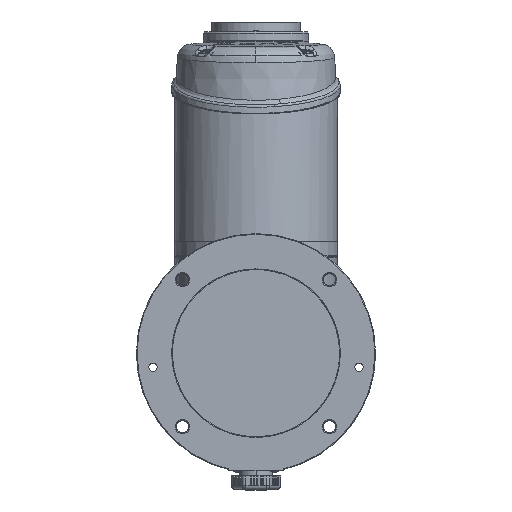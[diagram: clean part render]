
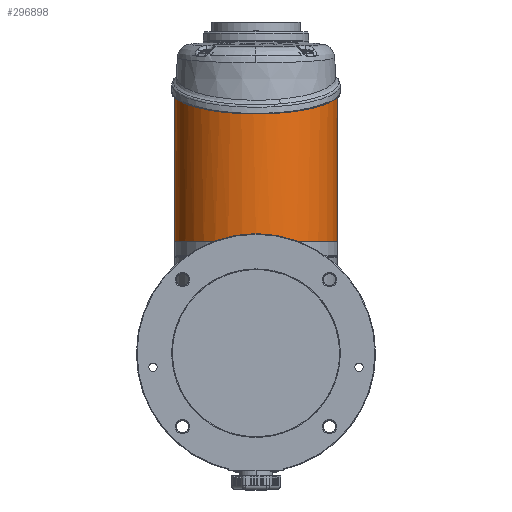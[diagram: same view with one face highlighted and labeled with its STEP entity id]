
A CAD part, top view. The second image highlights one B-rep face of the part: STEP entity #296898.
In plain terms, the highlighted cylindrical face has radius 58 mm (diameter 116 mm), a partial arc.
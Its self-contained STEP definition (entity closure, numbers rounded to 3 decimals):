
#4183 = LINE ( 'NONE', #149025, #191615 ) ;
#9005 = ORIENTED_EDGE ( 'NONE', *, *, #30426, .T. ) ;
#9321 = VERTEX_POINT ( 'NONE', #271841 ) ;
#10251 = EDGE_CURVE ( 'NONE', #9321, #205808, #4183, .T. ) ;
#23652 = EDGE_CURVE ( 'NONE', #246992, #205808, #54007, .T. ) ;
#24748 = CARTESIAN_POINT ( 'NONE',  ( -300.356, 48.062, -58. ) ) ;
#27156 = EDGE_LOOP ( 'NONE', ( #100541, #9005, #292848, #44445, #195191, #62971 ) ) ;
#30426 = EDGE_CURVE ( 'NONE', #163371, #248228, #185075, .T. ) ;
#33923 = LINE ( 'NONE', #299639, #308278 ) ;
#35808 = CARTESIAN_POINT ( 'NONE',  ( -300.356, 2.156, 58. ) ) ;
#44445 = ORIENTED_EDGE ( 'NONE', *, *, #168818, .T. ) ;
#49946 = CARTESIAN_POINT ( 'NONE',  ( -300.356, -58.844, 0. ) ) ;
#53421 = DIRECTION ( 'NONE',  ( 0., 1., 0. ) ) ;
#54007 =( BOUNDED_CURVE ( )  B_SPLINE_CURVE ( 3, ( #131040, #204197, #62571, #84900 ),
 .UNSPECIFIED., .F., .F. ) 
 B_SPLINE_CURVE_WITH_KNOTS ( ( 4, 4 ),
 ( 1.571, 4.712 ),
 .UNSPECIFIED. ) 
 CURVE ( )  GEOMETRIC_REPRESENTATION_ITEM ( )  RATIONAL_B_SPLINE_CURVE ( ( 1., 0.333, 0.333, 1. ) ) 
 REPRESENTATION_ITEM ( '' )  );
#62571 = CARTESIAN_POINT ( 'NONE',  ( -416.356, 16.98, -58. ) ) ;
#62971 = ORIENTED_EDGE ( 'NONE', *, *, #10251, .F. ) ;
#64353 = VECTOR ( 'NONE', #285037, 1000. ) ;
#65063 = AXIS2_PLACEMENT_3D ( 'NONE', #49946, #70741, #264790 ) ;
#70741 = DIRECTION ( 'NONE',  ( 0., 1., 0. ) ) ;
#84900 = CARTESIAN_POINT ( 'NONE',  ( -300.356, 48.062, -58. ) ) ;
#90212 = FACE_OUTER_BOUND ( 'NONE', #27156, .T. ) ;
#100541 = ORIENTED_EDGE ( 'NONE', *, *, #245495, .F. ) ;
#101167 = DIRECTION ( 'NONE',  ( 0., 1., 0. ) ) ;
#110000 = CARTESIAN_POINT ( 'NONE',  ( -300.356, -58.844, 58. ) ) ;
#123082 = CYLINDRICAL_SURFACE ( 'NONE', #65063, 58. ) ;
#131040 = CARTESIAN_POINT ( 'NONE',  ( -300.356, 48.062, 58. ) ) ;
#132507 = CARTESIAN_POINT ( 'NONE',  ( -300.356, -58.844, -58. ) ) ;
#134047 = LINE ( 'NONE', #132507, #285377 ) ;
#144654 = CARTESIAN_POINT ( 'NONE',  ( -300.356, -58.544, 58. ) ) ;
#149025 = CARTESIAN_POINT ( 'NONE',  ( -300.356, -58.844, -58. ) ) ;
#154222 = VERTEX_POINT ( 'NONE', #35808 ) ;
#163371 = VERTEX_POINT ( 'NONE', #247775 ) ;
#168818 = EDGE_CURVE ( 'NONE', #154222, #246992, #280362, .T. ) ;
#178624 = DIRECTION ( 'NONE',  ( 0., 1., 0. ) ) ;
#185075 = CIRCLE ( 'NONE', #235911, 58. ) ;
#191615 = VECTOR ( 'NONE', #101167, 1000. ) ;
#195191 = ORIENTED_EDGE ( 'NONE', *, *, #23652, .T. ) ;
#196556 = DIRECTION ( 'NONE',  ( 0., 0., 1. ) ) ;
#204197 = CARTESIAN_POINT ( 'NONE',  ( -416.356, 16.98, 58. ) ) ;
#205808 = VERTEX_POINT ( 'NONE', #24748 ) ;
#229101 = EDGE_CURVE ( 'NONE', #248228, #154222, #33923, .T. ) ;
#235911 = AXIS2_PLACEMENT_3D ( 'NONE', #247495, #53421, #196556 ) ;
#245495 = EDGE_CURVE ( 'NONE', #163371, #9321, #134047, .T. ) ;
#246992 = VERTEX_POINT ( 'NONE', #260444 ) ;
#247495 = CARTESIAN_POINT ( 'NONE',  ( -300.356, -58.544, 0. ) ) ;
#247775 = CARTESIAN_POINT ( 'NONE',  ( -300.356, -58.544, -58. ) ) ;
#248228 = VERTEX_POINT ( 'NONE', #144654 ) ;
#260444 = CARTESIAN_POINT ( 'NONE',  ( -300.356, 48.062, 58. ) ) ;
#264790 = DIRECTION ( 'NONE',  ( 0., 0., 1. ) ) ;
#271841 = CARTESIAN_POINT ( 'NONE',  ( -300.356, 2.156, -58. ) ) ;
#280362 = LINE ( 'NONE', #110000, #64353 ) ;
#285037 = DIRECTION ( 'NONE',  ( 0., 1., 0. ) ) ;
#285377 = VECTOR ( 'NONE', #305896, 1000. ) ;
#292848 = ORIENTED_EDGE ( 'NONE', *, *, #229101, .T. ) ;
#296898 = ADVANCED_FACE ( 'NONE', ( #90212 ), #123082, .T. ) ;
#299639 = CARTESIAN_POINT ( 'NONE',  ( -300.356, -58.844, 58. ) ) ;
#305896 = DIRECTION ( 'NONE',  ( 0., 1., 0. ) ) ;
#308278 = VECTOR ( 'NONE', #178624, 1000. ) ;
